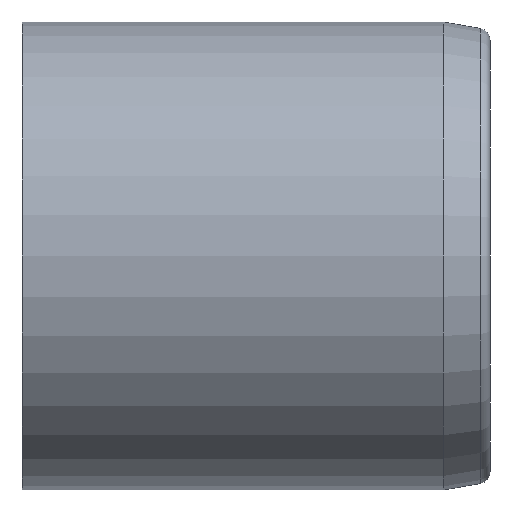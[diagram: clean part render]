
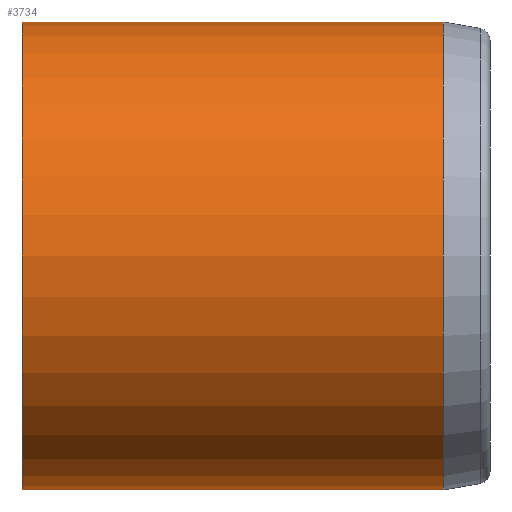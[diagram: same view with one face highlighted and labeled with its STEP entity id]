
A CAD part, left-side view. The second image highlights one B-rep face of the part: STEP entity #3734.
In plain terms, the highlighted cylindrical face has radius 10 mm (diameter 20 mm), a partial arc.
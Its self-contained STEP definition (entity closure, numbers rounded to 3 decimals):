
#7 = CARTESIAN_POINT ( 'NONE',  ( 0., -18., 0. ) ) ;
#8 = DIRECTION ( 'NONE',  ( 0., 0., 1. ) ) ;
#18 = DIRECTION ( 'NONE',  ( 0., 1., 0. ) ) ;
#457 = LINE ( 'NONE', #459, #3453 ) ;
#459 = CARTESIAN_POINT ( 'NONE',  ( 0., 0., 10. ) ) ;
#473 = DIRECTION ( 'NONE',  ( 0., 1., 0. ) ) ;
#517 = LINE ( 'NONE', #519, #3394 ) ;
#519 = CARTESIAN_POINT ( 'NONE',  ( 0., 0., -10. ) ) ;
#521 = DIRECTION ( 'NONE',  ( 0., 1., 0. ) ) ;
#596 = CARTESIAN_POINT ( 'NONE',  ( 0., 0., 0. ) ) ;
#597 = DIRECTION ( 'NONE',  ( 0., 1., 0. ) ) ;
#598 = DIRECTION ( 'NONE',  ( 0., 0., 1. ) ) ;
#647 = CARTESIAN_POINT ( 'NONE',  ( 0., -18., 10. ) ) ;
#670 = CARTESIAN_POINT ( 'NONE',  ( 0., -18., -10. ) ) ;
#697 = CARTESIAN_POINT ( 'NONE',  ( 0., 0., -10. ) ) ;
#732 = CARTESIAN_POINT ( 'NONE',  ( 0., 0., 10. ) ) ;
#1263 = ORIENTED_EDGE ( 'NONE', *, *, #3567, .T. ) ;
#1267 = ORIENTED_EDGE ( 'NONE', *, *, #3583, .T. ) ;
#1276 = ORIENTED_EDGE ( 'NONE', *, *, #3561, .F. ) ;
#1285 = ORIENTED_EDGE ( 'NONE', *, *, #3552, .F. ) ;
#1511 = EDGE_LOOP ( 'NONE', ( #1276, #1267, #1263, #1285 ) ) ;
#2024 = AXIS2_PLACEMENT_3D ( 'NONE', #3212, #3202, #3181 ) ;
#2989 = FACE_OUTER_BOUND ( 'NONE', #1511, .T. ) ;
#3181 = DIRECTION ( 'NONE',  ( 0., 0., 1. ) ) ;
#3202 = DIRECTION ( 'NONE',  ( 0., 1., 0. ) ) ;
#3210 = CYLINDRICAL_SURFACE ( 'NONE', #2024, 10. ) ;
#3212 = CARTESIAN_POINT ( 'NONE',  ( 0., 0., 0. ) ) ;
#3394 = VECTOR ( 'NONE', #521, 1000. ) ;
#3411 = AXIS2_PLACEMENT_3D ( 'NONE', #596, #597, #598 ) ;
#3422 = CIRCLE ( 'NONE', #3411, 10. ) ;
#3453 = VECTOR ( 'NONE', #473, 1000. ) ;
#3552 = EDGE_CURVE ( 'NONE', #4025, #4084, #3422, .T. ) ;
#3561 = EDGE_CURVE ( 'NONE', #4020, #4025, #517, .T. ) ;
#3567 = EDGE_CURVE ( 'NONE', #4023, #4084, #457, .T. ) ;
#3583 = EDGE_CURVE ( 'NONE', #4020, #4023, #4444, .T. ) ;
#3734 = ADVANCED_FACE ( 'NONE', ( #2989 ), #3210, .T. ) ;
#4020 = VERTEX_POINT ( 'NONE', #670 ) ;
#4023 = VERTEX_POINT ( 'NONE', #647 ) ;
#4025 = VERTEX_POINT ( 'NONE', #697 ) ;
#4084 = VERTEX_POINT ( 'NONE', #732 ) ;
#4444 = CIRCLE ( 'NONE', #4468, 10. ) ;
#4468 = AXIS2_PLACEMENT_3D ( 'NONE', #7, #18, #8 ) ;
